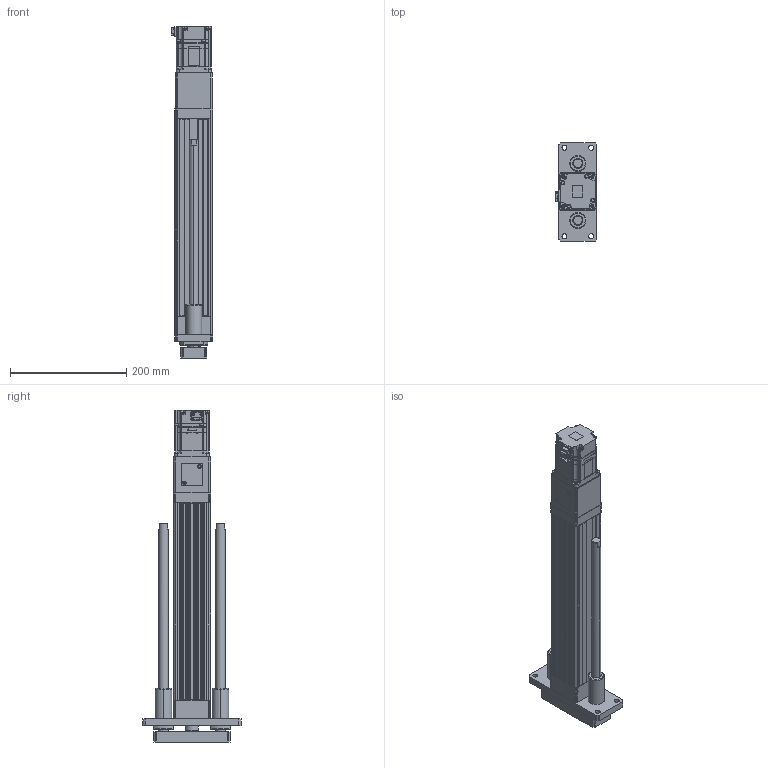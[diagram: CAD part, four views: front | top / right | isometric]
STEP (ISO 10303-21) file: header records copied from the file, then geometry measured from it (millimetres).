
FILE_DESCRIPTION (( 'STEP AP203' ), '1' );
FILE_NAME ('ANS065-GS250-05(10)-W20.STEP', '2019-02-28T08:39:58', ( 'user' ), ( '' ), 'SwSTEP 2.0', 'SolidWorks 2013', '' );
FILE_SCHEMA (( 'CONFIG_CONTROL_DESIGN' ));
Length unit declared in the file: millimetre
Products named in the file (4): ANS065 GS250 VER2; ANS065 ROD ST250 G; sgmjv_02a_a21; ANS065-GS250-05(10)-W20
Assembly tree (3 placements, depth 2):
  ANS065-GS250-05(10)-W20
    ANS065 GS250 VER2
    ANS065 ROD ST250 G
    sgmjv_02a_a21
Bounding box: 71.3 x 170 x 570.6 mm (x, y, z)
Volume: 1789113.6 mm3; surface area: 424334.6 mm2
Topology: 3 solids, 19 shells, 1500 faces, 3817 edges, 2439 vertices
Faces by surface type: plane 832, cylinder 482, cone 182, torus 4
Entity records: 45333 total; most frequent: CARTESIAN_POINT 7996, DIRECTION 7837, ORIENTED_EDGE 7570, EDGE_CURVE 3785, AXIS2_PLACEMENT_3D 2626, VECTOR 2585, LINE 2585, VERTEX_POINT 2439
